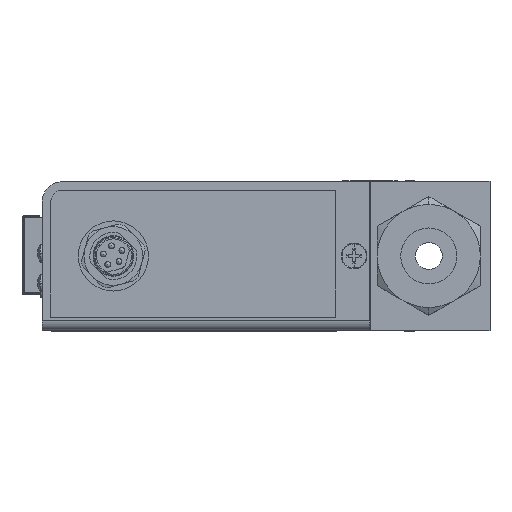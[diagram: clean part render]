
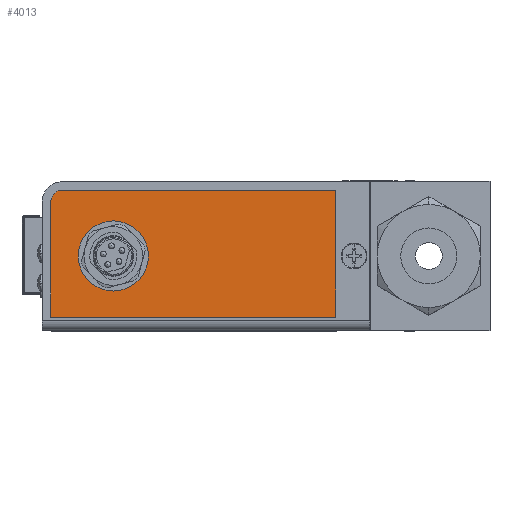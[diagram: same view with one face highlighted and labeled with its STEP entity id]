
A CAD part, left-side view. The second image highlights one B-rep face of the part: STEP entity #4013.
In plain terms, the highlighted planar face has unit normal (-1, 0, 0).
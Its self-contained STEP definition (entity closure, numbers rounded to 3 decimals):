
#1201 = VECTOR ( 'NONE', #43556, 1000. ) ;
#4013 = ADVANCED_FACE ( 'NONE', ( #111137, #23512 ), #56398, .T. ) ;
#7184 = EDGE_CURVE ( 'NONE', #9982, #81512, #31618, .T. ) ;
#9699 = DIRECTION ( 'NONE',  ( 0., 1., 0. ) ) ;
#9982 = VERTEX_POINT ( 'NONE', #62961 ) ;
#12537 = DIRECTION ( 'NONE',  ( 0., -1., 0. ) ) ;
#12967 = VERTEX_POINT ( 'NONE', #79986 ) ;
#12970 = AXIS2_PLACEMENT_3D ( 'NONE', #99591, #131778, #144164 ) ;
#20532 = EDGE_CURVE ( 'NONE', #12967, #31994, #101968, .T. ) ;
#21503 = ORIENTED_EDGE ( 'NONE', *, *, #7184, .T. ) ;
#23259 = CARTESIAN_POINT ( 'NONE',  ( -0.127, 15.811, -10.414 ) ) ;
#23512 = FACE_BOUND ( 'NONE', #61656, .T. ) ;
#24050 = EDGE_LOOP ( 'NONE', ( #116473, #119212, #21503, #60056, #112938 ) ) ;
#24657 = CIRCLE ( 'NONE', #12970, 2.032 ) ;
#27459 = DIRECTION ( 'NONE',  ( -1., 0., 0. ) ) ;
#31618 = LINE ( 'NONE', #76218, #60000 ) ;
#31994 = VERTEX_POINT ( 'NONE', #108914 ) ;
#34466 = DIRECTION ( 'NONE',  ( -1., 0., 0. ) ) ;
#35631 = DIRECTION ( 'NONE',  ( 0., 0., -1. ) ) ;
#35714 = DIRECTION ( 'NONE',  ( 0., 0., 1. ) ) ;
#39031 = AXIS2_PLACEMENT_3D ( 'NONE', #95899, #119256, #61659 ) ;
#43556 = DIRECTION ( 'NONE',  ( 0., -1., 0. ) ) ;
#51228 = ORIENTED_EDGE ( 'NONE', *, *, #127146, .F. ) ;
#52759 = VERTEX_POINT ( 'NONE', #68935 ) ;
#53806 = LINE ( 'NONE', #131930, #1201 ) ;
#56398 = PLANE ( 'NONE',  #136625 ) ;
#58295 = CARTESIAN_POINT ( 'NONE',  ( -0.127, 64.325, -10.414 ) ) ;
#58559 = CARTESIAN_POINT ( 'NONE',  ( -0.127, 62.293, 9.144 ) ) ;
#60000 = VECTOR ( 'NONE', #9699, 1000. ) ;
#60056 = ORIENTED_EDGE ( 'NONE', *, *, #116887, .T. ) ;
#60657 = CARTESIAN_POINT ( 'NONE',  ( -0.127, 64.325, -10.414 ) ) ;
#61656 = EDGE_LOOP ( 'NONE', ( #86864, #51228 ) ) ;
#61659 = DIRECTION ( 'NONE',  ( 0., -1., 0. ) ) ;
#62961 = CARTESIAN_POINT ( 'NONE',  ( -0.127, 15.811, 11.176 ) ) ;
#68935 = CARTESIAN_POINT ( 'NONE',  ( -0.127, 64.325, 9.144 ) ) ;
#76218 = CARTESIAN_POINT ( 'NONE',  ( -0.127, 62.293, 11.176 ) ) ;
#78883 = LINE ( 'NONE', #123368, #131870 ) ;
#79502 = LINE ( 'NONE', #58295, #87452 ) ;
#79986 = CARTESIAN_POINT ( 'NONE',  ( -0.127, 59.626, 0. ) ) ;
#81512 = VERTEX_POINT ( 'NONE', #89906 ) ;
#86394 = VERTEX_POINT ( 'NONE', #60657 ) ;
#86864 = ORIENTED_EDGE ( 'NONE', *, *, #20532, .F. ) ;
#87452 = VECTOR ( 'NONE', #35631, 1000. ) ;
#89906 = CARTESIAN_POINT ( 'NONE',  ( -0.127, 62.293, 11.176 ) ) ;
#95344 = AXIS2_PLACEMENT_3D ( 'NONE', #104119, #27459, #126775 ) ;
#95899 = CARTESIAN_POINT ( 'NONE',  ( -0.127, 53.657, 0. ) ) ;
#99591 = CARTESIAN_POINT ( 'NONE',  ( -0.127, 62.293, 9.144 ) ) ;
#101968 = CIRCLE ( 'NONE', #39031, 5.969 ) ;
#104119 = CARTESIAN_POINT ( 'NONE',  ( -0.127, 53.657, 0. ) ) ;
#105952 = VERTEX_POINT ( 'NONE', #23259 ) ;
#106064 = EDGE_CURVE ( 'NONE', #52759, #86394, #79502, .T. ) ;
#108914 = CARTESIAN_POINT ( 'NONE',  ( -0.127, 47.688, 0. ) ) ;
#111137 = FACE_OUTER_BOUND ( 'NONE', #24050, .T. ) ;
#112938 = ORIENTED_EDGE ( 'NONE', *, *, #106064, .T. ) ;
#116473 = ORIENTED_EDGE ( 'NONE', *, *, #118704, .T. ) ;
#116887 = EDGE_CURVE ( 'NONE', #81512, #52759, #24657, .T. ) ;
#118611 = CIRCLE ( 'NONE', #95344, 5.969 ) ;
#118704 = EDGE_CURVE ( 'NONE', #86394, #105952, #53806, .T. ) ;
#119212 = ORIENTED_EDGE ( 'NONE', *, *, #133601, .T. ) ;
#119256 = DIRECTION ( 'NONE',  ( -1., 0., 0. ) ) ;
#123368 = CARTESIAN_POINT ( 'NONE',  ( -0.127, 15.811, -10.414 ) ) ;
#126775 = DIRECTION ( 'NONE',  ( 0., -1., 0. ) ) ;
#127146 = EDGE_CURVE ( 'NONE', #31994, #12967, #118611, .T. ) ;
#131778 = DIRECTION ( 'NONE',  ( -1., 0., 0. ) ) ;
#131870 = VECTOR ( 'NONE', #35714, 1000. ) ;
#131930 = CARTESIAN_POINT ( 'NONE',  ( -0.127, 64.325, -10.414 ) ) ;
#133601 = EDGE_CURVE ( 'NONE', #105952, #9982, #78883, .T. ) ;
#136625 = AXIS2_PLACEMENT_3D ( 'NONE', #58559, #34466, #12537 ) ;
#144164 = DIRECTION ( 'NONE',  ( 0., -1., 0. ) ) ;
